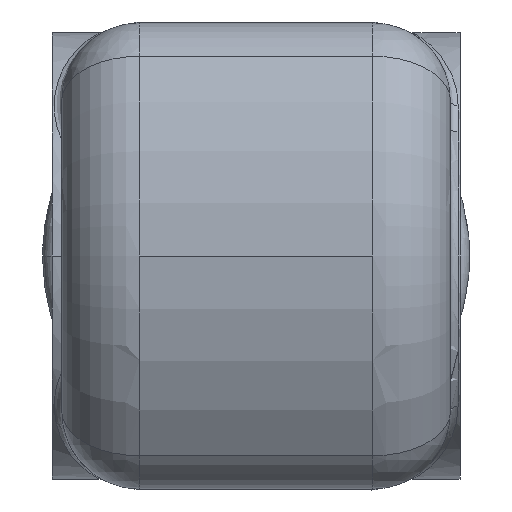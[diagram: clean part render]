
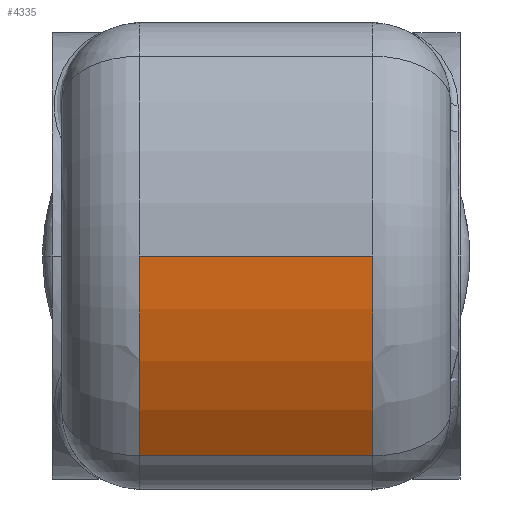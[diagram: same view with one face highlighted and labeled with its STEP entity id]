
A CAD part, front view. The second image highlights one B-rep face of the part: STEP entity #4335.
In plain terms, the highlighted cylindrical face has radius 90 mm (diameter 180 mm), a partial arc.
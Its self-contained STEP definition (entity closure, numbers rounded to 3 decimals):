
#22 = CARTESIAN_POINT ( 'NONE',  ( 30., 876.144, 1286.571 ) ) ;
#1625 = VECTOR ( 'NONE', #3866, 1000. ) ;
#1956 = AXIS2_PLACEMENT_3D ( 'NONE', #16253, #17864, #5378 ) ;
#2278 = DIRECTION ( 'NONE',  ( 1., 0., 0. ) ) ;
#2301 = DIRECTION ( 'NONE',  ( 0., 1., 0. ) ) ;
#3652 = CARTESIAN_POINT ( 'NONE',  ( -30., 950.002, 1338. ) ) ;
#3817 = VERTEX_POINT ( 'NONE', #7257 ) ;
#3866 = DIRECTION ( 'NONE',  ( -1., 0., 0. ) ) ;
#4335 = ADVANCED_FACE ( 'NONE', ( #5916 ), #16143, .T. ) ;
#4527 = AXIS2_PLACEMENT_3D ( 'NONE', #3652, #2278, #5349 ) ;
#5349 = DIRECTION ( 'NONE',  ( 0., 1., 0. ) ) ;
#5378 = DIRECTION ( 'NONE',  ( 0., -1., 0. ) ) ;
#5523 = EDGE_CURVE ( 'NONE', #3817, #15451, #16249, .T. ) ;
#5892 = EDGE_CURVE ( 'NONE', #15451, #7212, #6716, .T. ) ;
#5916 = FACE_OUTER_BOUND ( 'NONE', #9841, .T. ) ;
#6716 = CIRCLE ( 'NONE', #18113, 90. ) ;
#7212 = VERTEX_POINT ( 'NONE', #11085 ) ;
#7257 = CARTESIAN_POINT ( 'NONE',  ( -30., 876.144, 1286.571 ) ) ;
#7562 = ORIENTED_EDGE ( 'NONE', *, *, #5892, .T. ) ;
#9123 = CARTESIAN_POINT ( 'NONE',  ( -30., 860.002, 1338. ) ) ;
#9348 = ORIENTED_EDGE ( 'NONE', *, *, #17593, .T. ) ;
#9841 = EDGE_LOOP ( 'NONE', ( #7562, #10675, #9348, #11111 ) ) ;
#9920 = CARTESIAN_POINT ( 'NONE',  ( 30., 950.002, 1338. ) ) ;
#10014 = LINE ( 'NONE', #11452, #1625 ) ;
#10675 = ORIENTED_EDGE ( 'NONE', *, *, #13824, .T. ) ;
#10785 = VECTOR ( 'NONE', #11604, 1000. ) ;
#11085 = CARTESIAN_POINT ( 'NONE',  ( 30., 860.002, 1338. ) ) ;
#11111 = ORIENTED_EDGE ( 'NONE', *, *, #5523, .T. ) ;
#11452 = CARTESIAN_POINT ( 'NONE',  ( 50., 860.002, 1338. ) ) ;
#11462 = DIRECTION ( 'NONE',  ( -1., 0., 0. ) ) ;
#11604 = DIRECTION ( 'NONE',  ( 1., 0., 0. ) ) ;
#11634 = CIRCLE ( 'NONE', #4527, 90. ) ;
#13824 = EDGE_CURVE ( 'NONE', #7212, #17457, #10014, .T. ) ;
#15451 = VERTEX_POINT ( 'NONE', #22 ) ;
#16143 = CYLINDRICAL_SURFACE ( 'NONE', #1956, 90. ) ;
#16249 = LINE ( 'NONE', #17734, #10785 ) ;
#16253 = CARTESIAN_POINT ( 'NONE',  ( 50., 950.002, 1338. ) ) ;
#17457 = VERTEX_POINT ( 'NONE', #9123 ) ;
#17593 = EDGE_CURVE ( 'NONE', #17457, #3817, #11634, .T. ) ;
#17734 = CARTESIAN_POINT ( 'NONE',  ( 50., 876.144, 1286.571 ) ) ;
#17864 = DIRECTION ( 'NONE',  ( -1., 0., 0. ) ) ;
#18113 = AXIS2_PLACEMENT_3D ( 'NONE', #9920, #11462, #2301 ) ;
